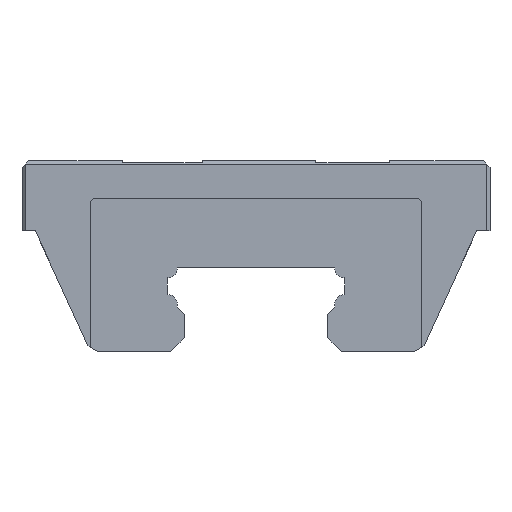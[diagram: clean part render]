
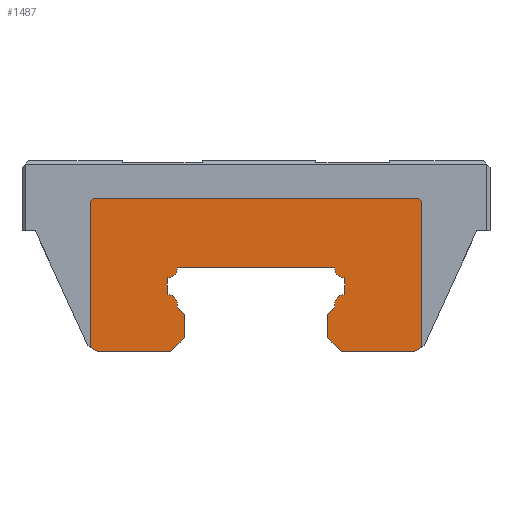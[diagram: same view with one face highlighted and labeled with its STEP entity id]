
A CAD part, left-side view. The second image highlights one B-rep face of the part: STEP entity #1487.
In plain terms, the highlighted planar face has unit normal (-1, 0, 0).
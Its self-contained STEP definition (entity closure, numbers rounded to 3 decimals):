
#45=LINE($,#2142,#225);
#49=LINE($,#2150,#229);
#52=LINE($,#2156,#232);
#53=LINE($,#2158,#233);
#54=LINE($,#2160,#234);
#55=LINE($,#2162,#235);
#56=LINE($,#2164,#236);
#57=LINE($,#2166,#237);
#58=LINE($,#2170,#238);
#59=LINE($,#2174,#239);
#60=LINE($,#2178,#240);
#61=LINE($,#2182,#241);
#62=LINE($,#2184,#242);
#63=LINE($,#2186,#243);
#64=LINE($,#2188,#244);
#65=LINE($,#2190,#245);
#66=LINE($,#2192,#246);
#67=LINE($,#2193,#247);
#225=VECTOR($,#1730,1.414);
#229=VECTOR($,#1736,97.);
#232=VECTOR($,#1741,43.417);
#233=VECTOR($,#1742,2.376);
#234=VECTOR($,#1743,22.);
#235=VECTOR($,#1744,5.657);
#236=VECTOR($,#1745,7.);
#237=VECTOR($,#1746,3.011);
#238=VECTOR($,#1749,5.);
#239=VECTOR($,#1752,47.);
#240=VECTOR($,#1755,5.);
#241=VECTOR($,#1758,3.011);
#242=VECTOR($,#1759,7.);
#243=VECTOR($,#1760,5.657);
#244=VECTOR($,#1761,22.);
#245=VECTOR($,#1762,2.376);
#246=VECTOR($,#1763,43.417);
#247=VECTOR($,#1764,1.414);
#401=PLANE($,#1582);
#490=FACE_OUTER_BOUND($,#581,.T.);
#581=EDGE_LOOP($,(#1075,#1076,#1077,#1078,#1079,#1080,#1081,#1082,#1083,
#1084,#1085,#1086,#1087,#1088,#1089,#1090,#1091,#1092,#1093,#1094,#1095,
#1096));
#665=CIRCLE($,#1583,3.);
#666=CIRCLE($,#1584,3.);
#667=CIRCLE($,#1585,3.);
#668=CIRCLE($,#1586,3.);
#697=VERTEX_POINT($,#2140);
#698=VERTEX_POINT($,#2141);
#701=VERTEX_POINT($,#2149);
#703=VERTEX_POINT($,#2155);
#704=VERTEX_POINT($,#2157);
#705=VERTEX_POINT($,#2159);
#706=VERTEX_POINT($,#2161);
#707=VERTEX_POINT($,#2163);
#708=VERTEX_POINT($,#2165);
#709=VERTEX_POINT($,#2167);
#710=VERTEX_POINT($,#2169);
#711=VERTEX_POINT($,#2171);
#712=VERTEX_POINT($,#2173);
#713=VERTEX_POINT($,#2175);
#714=VERTEX_POINT($,#2177);
#715=VERTEX_POINT($,#2179);
#716=VERTEX_POINT($,#2181);
#717=VERTEX_POINT($,#2183);
#718=VERTEX_POINT($,#2185);
#719=VERTEX_POINT($,#2187);
#720=VERTEX_POINT($,#2189);
#721=VERTEX_POINT($,#2191);
#843=EDGE_CURVE($,#697,#698,#45,.T.);
#847=EDGE_CURVE($,#698,#701,#49,.T.);
#850=EDGE_CURVE($,#703,#697,#52,.T.);
#851=EDGE_CURVE($,#704,#703,#53,.T.);
#852=EDGE_CURVE($,#704,#705,#54,.T.);
#853=EDGE_CURVE($,#706,#705,#55,.T.);
#854=EDGE_CURVE($,#707,#706,#56,.T.);
#855=EDGE_CURVE($,#708,#707,#57,.T.);
#856=EDGE_CURVE($,#709,#708,#665,.T.);
#857=EDGE_CURVE($,#710,#709,#58,.T.);
#858=EDGE_CURVE($,#711,#710,#666,.T.);
#859=EDGE_CURVE($,#712,#711,#59,.T.);
#860=EDGE_CURVE($,#713,#712,#667,.T.);
#861=EDGE_CURVE($,#714,#713,#60,.T.);
#862=EDGE_CURVE($,#715,#714,#668,.T.);
#863=EDGE_CURVE($,#716,#715,#61,.T.);
#864=EDGE_CURVE($,#717,#716,#62,.T.);
#865=EDGE_CURVE($,#718,#717,#63,.T.);
#866=EDGE_CURVE($,#718,#719,#64,.T.);
#867=EDGE_CURVE($,#720,#719,#65,.T.);
#868=EDGE_CURVE($,#721,#720,#66,.T.);
#869=EDGE_CURVE($,#701,#721,#67,.T.);
#1075=ORIENTED_EDGE($,*,*,#843,.F.);
#1076=ORIENTED_EDGE($,*,*,#850,.F.);
#1077=ORIENTED_EDGE($,*,*,#851,.F.);
#1078=ORIENTED_EDGE($,*,*,#852,.T.);
#1079=ORIENTED_EDGE($,*,*,#853,.F.);
#1080=ORIENTED_EDGE($,*,*,#854,.F.);
#1081=ORIENTED_EDGE($,*,*,#855,.F.);
#1082=ORIENTED_EDGE($,*,*,#856,.F.);
#1083=ORIENTED_EDGE($,*,*,#857,.F.);
#1084=ORIENTED_EDGE($,*,*,#858,.F.);
#1085=ORIENTED_EDGE($,*,*,#859,.F.);
#1086=ORIENTED_EDGE($,*,*,#860,.F.);
#1087=ORIENTED_EDGE($,*,*,#861,.F.);
#1088=ORIENTED_EDGE($,*,*,#862,.F.);
#1089=ORIENTED_EDGE($,*,*,#863,.F.);
#1090=ORIENTED_EDGE($,*,*,#864,.F.);
#1091=ORIENTED_EDGE($,*,*,#865,.F.);
#1092=ORIENTED_EDGE($,*,*,#866,.T.);
#1093=ORIENTED_EDGE($,*,*,#867,.F.);
#1094=ORIENTED_EDGE($,*,*,#868,.F.);
#1095=ORIENTED_EDGE($,*,*,#869,.F.);
#1096=ORIENTED_EDGE($,*,*,#847,.F.);
#1487=ADVANCED_FACE($,(#490),#401,.F.);
#1582=AXIS2_PLACEMENT_3D($,#2154,#1739,#1740);
#1583=AXIS2_PLACEMENT_3D($,#2168,#1747,#1748);
#1584=AXIS2_PLACEMENT_3D($,#2172,#1750,#1751);
#1585=AXIS2_PLACEMENT_3D($,#2176,#1753,#1754);
#1586=AXIS2_PLACEMENT_3D($,#2180,#1756,#1757);
#1730=DIRECTION($,(0.,-0.707,0.707));
#1736=DIRECTION($,(0.,-1.,0.));
#1739=DIRECTION('center_axis',(1.,0.,0.));
#1740=DIRECTION('ref_axis',(0.,0.,-1.));
#1741=DIRECTION($,(0.,0.,1.));
#1742=DIRECTION($,(0.,0.842,0.54));
#1743=DIRECTION($,(0.,-1.,0.));
#1744=DIRECTION($,(0.,0.707,-0.707));
#1745=DIRECTION($,(0.,0.,-1.));
#1746=DIRECTION($,(0.,-0.707,-0.707));
#1747=DIRECTION('center_axis',(1.,0.,0.));
#1748=DIRECTION('ref_axis',(0.,0.,1.));
#1749=DIRECTION($,(0.,0.,-1.));
#1750=DIRECTION('center_axis',(1.,0.,0.));
#1751=DIRECTION('ref_axis',(0.,-1.,0.));
#1752=DIRECTION($,(0.,1.,0.));
#1753=DIRECTION('center_axis',(1.,0.,0.));
#1754=DIRECTION('ref_axis',(0.,0.,-1.));
#1755=DIRECTION($,(0.,0.,1.));
#1756=DIRECTION('center_axis',(1.,0.,0.));
#1757=DIRECTION('ref_axis',(0.,0.957,-0.29));
#1758=DIRECTION($,(0.,-0.707,0.707));
#1759=DIRECTION($,(0.,0.,1.));
#1760=DIRECTION($,(0.,0.707,0.707));
#1761=DIRECTION($,(0.,-1.,0.));
#1762=DIRECTION($,(0.,0.842,-0.54));
#1763=DIRECTION($,(0.,0.,-1.));
#1764=DIRECTION($,(0.,-0.707,-0.707));
#2140=CARTESIAN_POINT('',(0.,76.,57.7));
#2141=CARTESIAN_POINT('',(0.,75.,58.7));
#2142=CARTESIAN_POINT($,(0.,69.754,63.946));
#2149=CARTESIAN_POINT('',(0.,-22.,58.7));
#2150=CARTESIAN_POINT($,(0.,76.,58.7));
#2154=CARTESIAN_POINT('Origin',(0.,26.5,32.185));
#2155=CARTESIAN_POINT('',(0.,76.,14.283));
#2156=CARTESIAN_POINT($,(0.,76.,0.));
#2157=CARTESIAN_POINT('',(0.,74.,13.));
#2158=CARTESIAN_POINT($,(0.,62.246,5.457));
#2159=CARTESIAN_POINT('',(0.,52.,13.));
#2160=CARTESIAN_POINT($,(0.,26.5,13.));
#2161=CARTESIAN_POINT('',(0.,48.,17.));
#2162=CARTESIAN_POINT($,(0.,48.,17.));
#2163=CARTESIAN_POINT('',(0.,48.,24.));
#2164=CARTESIAN_POINT($,(0.,48.,24.));
#2165=CARTESIAN_POINT('',(0.,50.129,26.129));
#2166=CARTESIAN_POINT($,(0.,50.129,26.129));
#2167=CARTESIAN_POINT('',(0.,53.,30.));
#2168=CARTESIAN_POINT('Origin',(0.,53.,27.));
#2169=CARTESIAN_POINT('',(0.,53.,35.));
#2170=CARTESIAN_POINT($,(0.,53.,35.));
#2171=CARTESIAN_POINT('',(0.,50.,38.));
#2172=CARTESIAN_POINT('Origin',(0.,53.,38.));
#2173=CARTESIAN_POINT('',(0.,3.,38.));
#2174=CARTESIAN_POINT($,(0.,3.,38.));
#2175=CARTESIAN_POINT('',(0.,0.,35.));
#2176=CARTESIAN_POINT('Origin',(0.,0.,38.));
#2177=CARTESIAN_POINT('',(0.,0.,30.));
#2178=CARTESIAN_POINT($,(0.,0.,30.));
#2179=CARTESIAN_POINT('',(0.,2.871,26.129));
#2180=CARTESIAN_POINT('Origin',(0.,0.,27.));
#2181=CARTESIAN_POINT('',(0.,5.,24.));
#2182=CARTESIAN_POINT($,(0.,5.,24.));
#2183=CARTESIAN_POINT('',(0.,5.,17.));
#2184=CARTESIAN_POINT($,(0.,5.,17.));
#2185=CARTESIAN_POINT('',(0.,1.,13.));
#2186=CARTESIAN_POINT($,(0.,0.,12.));
#2187=CARTESIAN_POINT('',(0.,-21.,13.));
#2188=CARTESIAN_POINT($,(0.,26.5,13.));
#2189=CARTESIAN_POINT('',(0.,-23.,14.283));
#2190=CARTESIAN_POINT($,(0.,-9.246,5.457));
#2191=CARTESIAN_POINT('',(0.,-23.,57.7));
#2192=CARTESIAN_POINT($,(0.,-23.,58.7));
#2193=CARTESIAN_POINT($,(0.,-16.754,63.946));
